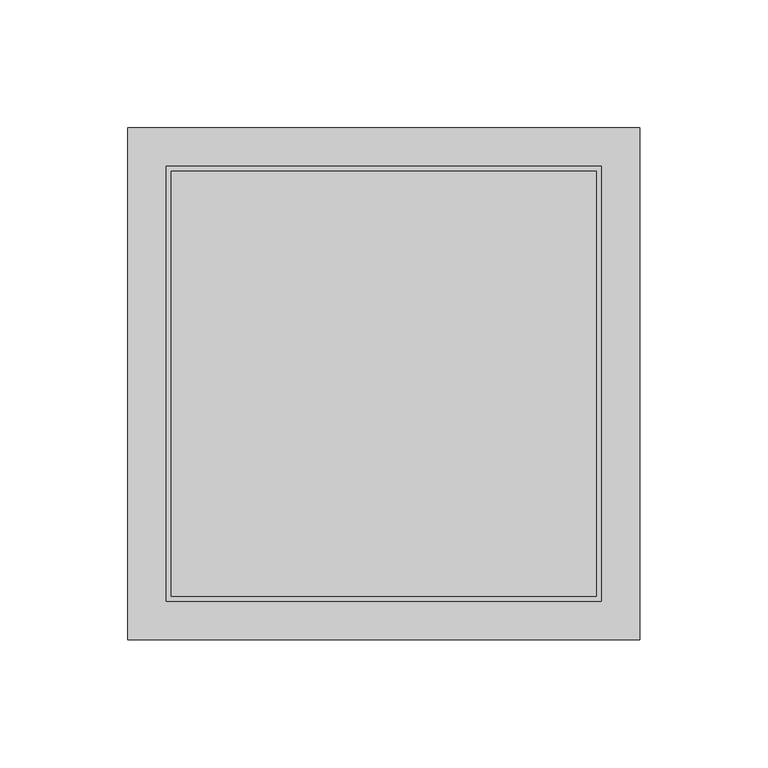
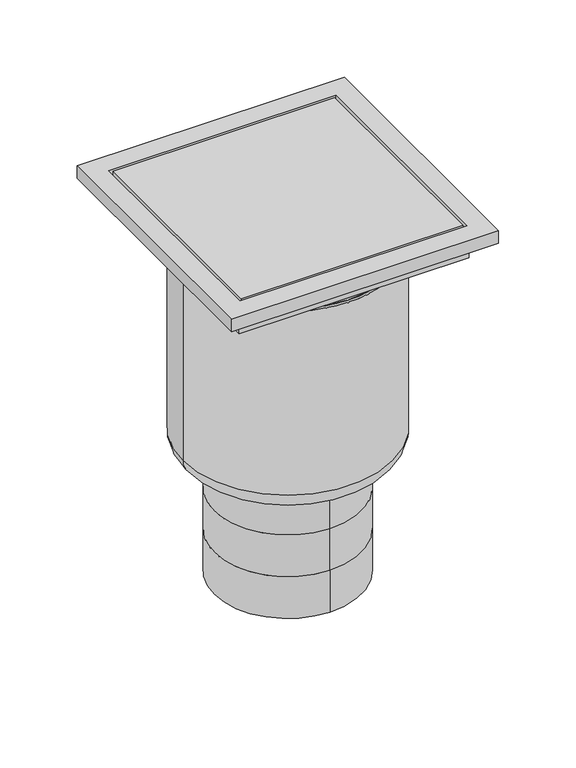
"""IFC4 building model written with IfcOpenShell, lengths in millimetres: sanitary terminal geometry, PF_ST_UN_Siphon telescopics epur hygiene first_ACO : 200 x200 Monolithique hygenic gully 157mm outlet DN110."""

from ifc_helpers import new_model, si_unit, point, frame, origin, origin_2d, place, context, project, spatial, polyline, circle_curve, ellipse_curve, trimmed, segment, composite_curve, outline, extrude, faceted_brep, source, transform, mapped, element, save
from ifc_brep_helpers import plane_surface, cylinder_surface, revolved_surface, advanced_brep


def sanitary_terminal_4e328713(model_context):
    return source(origin(), model_context, "Body", "SolidModel", [
        advanced_brep(
        [(0.0, -55.0, -414.0), (0.0, 55.0, -414.0), (0.0, -55.0, -381.0), (0.0, 55.0, -381.0), (0.0, -55.0, -348.0), (0.0, 55.0, -348.0), (0.0, 55.0, -315.0), (55.0, 0.0, -315.0), (0.0, -55.0, -315.0), (-55.0, 0.0, -315.0), (78.5, 0.0, -300.0), (-78.5, 0.0, -300.0), (-78.5, 0.0, -155.0), (78.5, 0.0, -155.0), (63.5, 0.0, -315.0), (-63.5, 0.0, -315.0), (-78.5, 0.0, -153.0), (78.5, 0.0, -153.0)],
        [
            (0, 1, circle_curve(frame((0.0, 0.0, -414.0), z_axis=(0.0, 0.0, -1.0), x_axis=(0.0, 1.0, 0.0)), 55.0)),
            (1, 0, circle_curve(frame((0.0, 0.0, -414.0), z_axis=(0.0, 0.0, -1.0), x_axis=(0.0, 1.0, 0.0)), 55.0)),
            (0, 2),
            (2, 3, circle_curve(frame((0.0, 0.0, -381.0), z_axis=(0.0, 0.0, -1.0), x_axis=(0.0, 1.0, 0.0)), 55.0)),
            (3, 1),
            (3, 2, circle_curve(frame((0.0, 0.0, -381.0), z_axis=(0.0, 0.0, -1.0), x_axis=(0.0, 1.0, 0.0)), 55.0)),
            (4, 2),
            (3, 5),
            (5, 4, circle_curve(frame((0.0, 0.0, -348.0), z_axis=(0.0, 0.0, -1.0), x_axis=(1.0, 0.0, 0.0)), 55.0)),
            (4, 5, circle_curve(frame((0.0, 0.0, -348.0), z_axis=(0.0, 0.0, -1.0), x_axis=(-1.0, 0.0, 0.0)), 55.0)),
            (5, 6),
            (6, 7, circle_curve(frame((0.0, 0.0, -315.0), z_axis=(0.0, 0.0, -1.0), x_axis=(0.0, 1.0, 0.0)), 55.0)),
            (7, 8, circle_curve(frame((0.0, 0.0, -315.0), z_axis=(0.0, 0.0, -1.0), x_axis=(0.0, 1.0, 0.0)), 55.0)),
            (8, 4),
            (8, 9, circle_curve(frame((0.0, 0.0, -315.0), z_axis=(0.0, 0.0, -1.0), x_axis=(0.0, 1.0, 0.0)), 55.0)),
            (9, 6, circle_curve(frame((0.0, 0.0, -315.0), z_axis=(0.0, 0.0, -1.0), x_axis=(0.0, 1.0, 0.0)), 55.0)),
            (10, 11, circle_curve(frame((0.0, 0.0, -300.0), z_axis=(0.0, 0.0, 1.0), x_axis=(-1.0, 0.0, 0.0)), 78.5)),
            (11, 12),
            (12, 13, circle_curve(frame((0.0, 0.0, -155.0), z_axis=(0.0, 0.0, -1.0), x_axis=(-1.0, 0.0, 0.0)), 78.5)),
            (13, 10),
            (11, 10, circle_curve(frame((0.0, 0.0, -300.0), z_axis=(0.0, 0.0, 1.0), x_axis=(-1.0, 0.0, 0.0)), 78.5)),
            (13, 12, circle_curve(frame((0.0, 0.0, -155.0), z_axis=(0.0, 0.0, -1.0), x_axis=(-1.0, 0.0, 0.0)), 78.5)),
            (10, 14, circle_curve(frame((63.5, 0.0, -300.0), z_axis=(0.0, 1.0, 0.0), x_axis=(-1.0, 0.0, 0.0)), 15.0)),
            (14, 15, circle_curve(frame((0.0, 0.0, -315.0), z_axis=(0.0, 0.0, 1.0), x_axis=(-1.0, 0.0, 0.0)), 63.5)),
            (15, 11, circle_curve(frame((-63.5, 0.0, -300.0), z_axis=(0.0, 1.0, 0.0), x_axis=(1.0, 0.0, 0.0)), 15.0)),
            (15, 14, circle_curve(frame((0.0, 0.0, -315.0), z_axis=(0.0, 0.0, 1.0), x_axis=(-1.0, 0.0, 0.0)), 63.5)),
            (14, 7),
            (9, 15),
            (16, 17, circle_curve(frame((0.0, 0.0, -153.0), z_axis=(0.0, 0.0, 1.0), x_axis=(1.0, 0.0, 0.0)), 78.5)),
            (17, 16, circle_curve(frame((0.0, 0.0, -153.0), z_axis=(0.0, 0.0, 1.0), x_axis=(1.0, 0.0, 0.0)), 78.5)),
            (16, 12),
            (13, 17),
        ],
        [
            plane_surface(frame((0.0, 55.0, -414.0), z_axis=(0.0, 0.0, -1.0), x_axis=(1.0, 0.0, 0.0))),
            cylinder_surface(frame((0.0, 0.0, -381.0), z_axis=(0.0, 0.0, -1.0), x_axis=(0.0, 1.0, 0.0)), 55.0),
            cylinder_surface(frame((0.0, 0.0, -348.0), z_axis=(0.0, 0.0, -1.0), x_axis=(1.0, 0.0, 0.0)), 55.0),
            cylinder_surface(frame((0.0, 0.0, -348.0), z_axis=(0.0, 0.0, -1.0), x_axis=(-1.0, 0.0, 0.0)), 55.0),
            cylinder_surface(frame((0.0, 0.0, -315.0), z_axis=(0.0, 0.0, -1.0), x_axis=(0.0, 1.0, 0.0)), 55.0),
            cylinder_surface(frame((0.0, 0.0, -93.0), z_axis=(0.0, 0.0, -1.0), x_axis=(-1.0, 0.0, 0.0)), 78.5),
            revolved_surface(trimmed(ellipse_curve(frame((-63.5, 0.0, -300.0), z_axis=(0.0, -1.0, 0.0), x_axis=(1.0, 0.0, 0.0)), 15.0, 15.0), [point((-78.5, 0.0, -300.0))], [point((-63.5, 0.0, -315.0))], True, "CARTESIAN"), (0.0, 0.0, -93.0), (0.0, 0.0, -1.0)),
            plane_surface(frame((0.0, 0.0, -315.0), z_axis=(0.0, 0.0, -1.0), x_axis=(-1.0, 0.0, 0.0))),
            plane_surface(frame((78.5, 0.0, -153.0), z_axis=(0.0, 0.0, 1.0), x_axis=(0.0, 1.0, 0.0))),
            cylinder_surface(frame((0.0, 0.0, -155.0), z_axis=(0.0, 0.0, 1.0), x_axis=(1.0, 0.0, 0.0)), 78.5),
        ],
        [
            (0, [[1, 2]]),
            (1, [[-1, 3, 4, 5]]),
            (1, [[-2, -5, 6, -3]]),
            (2, [[7, -6, 8, 9]]),
            (3, [[-7, 10, -8, -4]]),
            (4, [[11, 12, 13, 14, -9]]),
            (4, [[-11, -10, -14, 15, 16]]),
            (5, [[17, 18, 19, 20]]),
            (5, [[-18, 21, -20, 22]]),
            (6, [[-17, 23, 24, 25]]),
            (6, [[-21, -25, 26, -23]]),
            (7, [[-24, 27, -12, -16, 28]]),
            (7, [[-26, -28, -15, -13, -27]]),
            (8, [[29, 30]]),
            (9, [[-29, 31, -22, 32]]),
            (9, [[-30, -32, -19, -31]]),
        ],
    ),
        extrude(outline(composite_curve([segment(trimmed(circle_curve(origin_2d(), 78.5), [point((-78.5, 0.0))], [point((78.5, 0.0))], False, "CARTESIAN"), True, "CONTINUOUS"), segment(trimmed(circle_curve(origin_2d(), 78.5), [point((78.5, 0.0))], [point((-78.5, 0.0))], False, "CARTESIAN"), True, "CONTINUOUS")], self_intersect=False)), frame((0.0, 0.0, -153.0), z_axis=(0.0, 0.0, 1.0), x_axis=(1.0, 0.0, 0.0)), (0.0, 0.0, 1.0), 8.0),
        faceted_brep([(100.0, 100.0, -130.0), (100.0, 100.0, -120.0), (100.0, -100.0, -120.0), (100.0, -100.0, -130.0), (86.0, 86.0, -145.0), (86.0, 86.0, -130.0), (86.0, -86.0, -130.0), (86.0, -86.0, -145.0), (85.0, -85.0, -120.0), (85.0, 85.0, -120.0), (85.0, 85.0, -135.0), (85.0, -85.0, -135.0), (-100.0, -100.0, -120.0), (-100.0, -100.0, -130.0), (-86.0, -86.0, -130.0), (-86.0, -86.0, -145.0), (-85.0, -85.0, -120.0), (-85.0, -85.0, -135.0), (-100.0, 100.0, -120.0), (-100.0, 100.0, -130.0), (-86.0, 86.0, -130.0), (-86.0, 86.0, -145.0), (-85.0, 85.0, -120.0), (-85.0, 85.0, -135.0)], [[[0, 1, 2, 3]], [[4, 5, 6, 7]], [[8, 9, 10, 11]], [[3, 2, 12, 13]], [[7, 6, 14, 15]], [[16, 8, 11, 17]], [[13, 12, 18, 19]], [[15, 14, 20, 21]], [[22, 16, 17, 23]], [[2, 1, 18, 12], [9, 8, 16, 22]], [[1, 0, 19, 18]], [[0, 3, 13, 19], [6, 5, 20, 14]], [[5, 4, 21, 20]], [[4, 7, 15, 21]], [[9, 22, 23, 10]], [[11, 10, 23, 17]]]),
        extrude(outline(polyline([(83.0, 83.0), (83.0, -83.0), (-83.0, -83.0), (-83.0, 83.0), (83.0, 83.0)])), frame((0.0, 0.0, -135.0), z_axis=(0.0, 0.0, 1.0), x_axis=(1.0, 0.0, 0.0)), (0.0, 0.0, 1.0), 15.0),
    ])


if __name__ == "__main__":
    model = new_model("IFC4")
    model_context = context("Model", 3, world=origin())
    ifc_project = project(units=[si_unit("LENGTHUNIT", "METRE", prefix="MILLI")], contexts=[model_context])
    site = spatial("IfcSite", under=ifc_project)
    building = spatial("IfcBuilding", under=site)
    placement = place(None, origin())
    sanitary_terminal_shape = sanitary_terminal_4e328713(model_context)
    element("IfcSanitaryTerminal", 1, ObjectType="PF_ST_UN_Siphon telescopics epur hygiene first_ACO : 200 x200 Monolithique hygenic gully 157mm outlet DN110", at=placement, inside=building, context=model_context, shape_type="MappedRepresentation", body=[
        mapped(sanitary_terminal_shape, transform((0.0, 0.0, 0.0), x_axis=(1.0, 0.0, 0.0), y_axis=(0.0, 1.0, 0.0), z_axis=(0.0, 0.0, 1.0))),
    ])
    save(model, "model.ifc")
